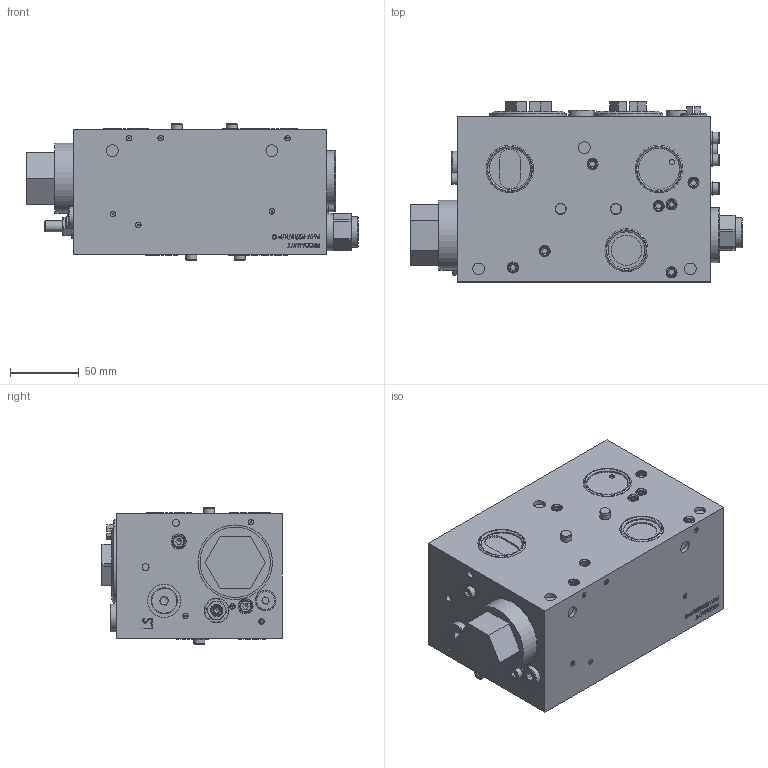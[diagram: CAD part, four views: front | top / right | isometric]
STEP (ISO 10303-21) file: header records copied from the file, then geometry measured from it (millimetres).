
FILE_DESCRIPTION (( 'STEP AP214' ), '1' );
FILE_NAME ('0304507.STEP', '2022-08-01T14:26:02', ( '' ), ( '' ), 'SwSTEP 2.0', 'SolidWorks 2020', '' );
FILE_SCHEMA (( 'AUTOMOTIVE_DESIGN' ));
Length unit declared in the file: millimetre
Products named in the file (28): 0289301_002; 0081170_006; 0288965_003; 0287187_001; 0072126_221.5561; 0073842_153.2402; 0296937_002; 0290158_013; 0290158_015; 0283782_001; 0295364_001; 0290158_005; 0079915_005; 0072022_238.3402; 0166400_001; 0072022_238.1405; 0073837_049.2050; 0287181_001; 0290158_007; 0290158_001; 0072022_238.8400; 0293549_001; 0101640_053.2300; 0295366_001; 0074697_246.2308; 0304507; 0072022_238.2406; 0290158_019
Assembly tree (77 placements, depth 3):
  0304507
    0296937_002
    0283782_001  x24
    0289301_002
      0288965_003
      0072022_238.3402
    0072022_238.8400
    0290158_019
    0293549_001
    0081170_006
    0287181_001
    0101640_053.2300
    0287187_001
    0073842_153.2402
    0072022_238.1405
    0072022_238.2406  x3
    0290158_001  x11
    0290158_015
    0079915_005
    0073837_049.2050  x6
    0074697_246.2308  x6
    0295366_001
    0295364_001
    0166400_001
    0290158_005
    0290158_007  x2
    0290158_013  x2
    0072126_221.5561  x4
Bounding box: 240.8 x 130.7 x 100 mm (x, y, z)
Volume: 2097354.3 mm3; surface area: 182985.5 mm2
Topology: 112 solids, 112 shells, 2243 faces, 4592 edges, 2846 vertices
Faces by surface type: plane 1045, cone 583, cylinder 396, bspline 193, torus 26
Full cylindrical faces by diameter (mm): 0.6 x25, 1 x1, 1.1 x24, 2 x1, 2.111 x1, 2.4 x1, 3.5 x24, 3.7 x2, 3.767 x24, 4 x37, 4.1 x1, 4.2 x6, 4.47 x11, 5 x14, 5.7 x6, 6 x2, 6.8 x4, 7 x1, 7.8 x11, 7.85 x12, 8 x9, 8.03 x11, 8.3 x1, 8.4 x1, 8.5 x12, 8.8 x1, 9.7 x1, 10 x6, 10.95 x2, 11.3 x3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
Entity records: 43440 total; most frequent: CARTESIAN_POINT 15539, DIRECTION 5031, ORIENTED_EDGE 4718, EDGE_CURVE 2359, AXIS2_PLACEMENT_3D 1782, EDGE_LOOP 1763, VERTEX_POINT 1718, VECTOR 1467
